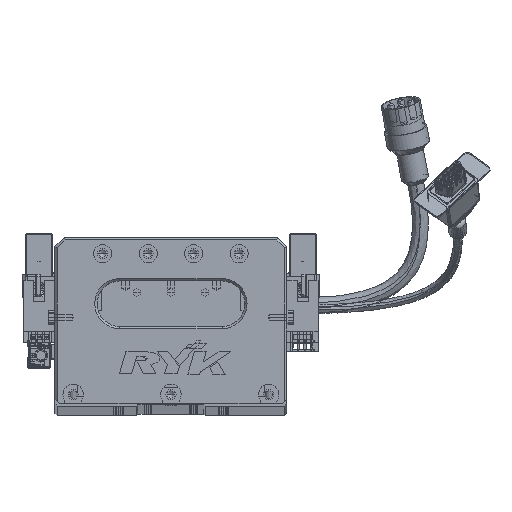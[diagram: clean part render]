
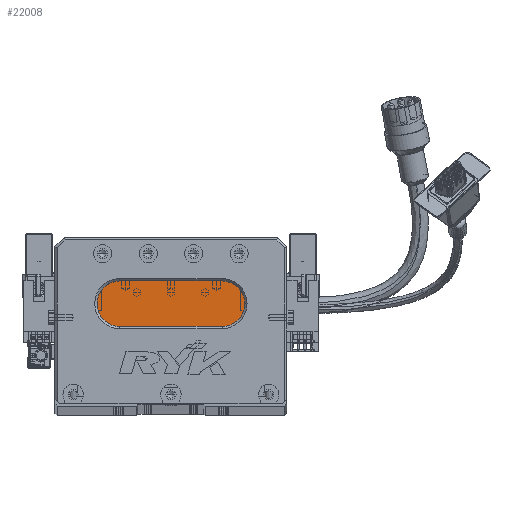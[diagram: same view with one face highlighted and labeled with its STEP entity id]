
A CAD part, top view. The second image highlights one B-rep face of the part: STEP entity #22008.
In plain terms, the highlighted planar face has unit normal (0, 0, 1) as drawn and (0, 0, -1) by its records, which use the part's own axes.
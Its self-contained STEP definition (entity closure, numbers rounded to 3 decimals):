
#2635 = ORIENTED_EDGE ( 'NONE', *, *, #57003, .T. ) ;
#4502 = VERTEX_POINT ( 'NONE', #73982 ) ;
#4646 = CARTESIAN_POINT ( 'NONE',  ( 73.5, 44., 13. ) ) ;
#4796 = EDGE_CURVE ( 'NONE', #67880, #53531, #42107, .T. ) ;
#7554 = CARTESIAN_POINT ( 'NONE',  ( 28.5, 44., 13. ) ) ;
#7565 = VECTOR ( 'NONE', #76485, 1000. ) ;
#7618 = VERTEX_POINT ( 'NONE', #7800 ) ;
#7800 = CARTESIAN_POINT ( 'NONE',  ( 28.5, 34., 13. ) ) ;
#8152 = AXIS2_PLACEMENT_3D ( 'NONE', #50992, #12113, #38253 ) ;
#9529 = AXIS2_PLACEMENT_3D ( 'NONE', #83422, #44662, #38685 ) ;
#10736 = EDGE_CURVE ( 'NONE', #4502, #7618, #74626, .T. ) ;
#12113 = DIRECTION ( 'NONE',  ( 0., 0., -1. ) ) ;
#17952 = DIRECTION ( 'NONE',  ( -1., 0., 0. ) ) ;
#19794 = DIRECTION ( 'NONE',  ( 0., 0., -1. ) ) ;
#22008 = ADVANCED_FACE ( 'NONE', ( #33306 ), #81484, .T. ) ;
#29316 = CARTESIAN_POINT ( 'NONE',  ( 28.5, 54., 13. ) ) ;
#29361 = DIRECTION ( 'NONE',  ( -1., 0., 0. ) ) ;
#29587 = AXIS2_PLACEMENT_3D ( 'NONE', #7554, #19794, #64889 ) ;
#29715 = CIRCLE ( 'NONE', #29587, 10. ) ;
#30691 = CIRCLE ( 'NONE', #9529, 10. ) ;
#31153 = CARTESIAN_POINT ( 'NONE',  ( 73.5, 54., 13. ) ) ;
#33306 = FACE_OUTER_BOUND ( 'NONE', #67785, .T. ) ;
#35157 = VECTOR ( 'NONE', #29361, 1000. ) ;
#36742 = CARTESIAN_POINT ( 'NONE',  ( 18.5, 44., 13. ) ) ;
#38253 = DIRECTION ( 'NONE',  ( -1., 0., 0. ) ) ;
#38685 = DIRECTION ( 'NONE',  ( -1., 0., 0. ) ) ;
#41647 = ORIENTED_EDGE ( 'NONE', *, *, #4796, .T. ) ;
#42107 = LINE ( 'NONE', #31153, #7565 ) ;
#44662 = DIRECTION ( 'NONE',  ( 0., 0., -1. ) ) ;
#45562 = ORIENTED_EDGE ( 'NONE', *, *, #51574, .T. ) ;
#50358 = VERTEX_POINT ( 'NONE', #36742 ) ;
#50992 = CARTESIAN_POINT ( 'NONE',  ( 28.5, 44., 13. ) ) ;
#51574 = EDGE_CURVE ( 'NONE', #53531, #4502, #30691, .T. ) ;
#52502 = CARTESIAN_POINT ( 'NONE',  ( 73.5, 54., 13. ) ) ;
#53531 = VERTEX_POINT ( 'NONE', #52502 ) ;
#55237 = EDGE_CURVE ( 'NONE', #7618, #50358, #57417, .T. ) ;
#56539 = DIRECTION ( 'NONE',  ( 0., 0., -1. ) ) ;
#56862 = CARTESIAN_POINT ( 'NONE',  ( 73.5, 34., 13. ) ) ;
#57003 = EDGE_CURVE ( 'NONE', #50358, #67880, #29715, .T. ) ;
#57417 = CIRCLE ( 'NONE', #8152, 10. ) ;
#63247 = ORIENTED_EDGE ( 'NONE', *, *, #10736, .T. ) ;
#64889 = DIRECTION ( 'NONE',  ( -1., 0., 0. ) ) ;
#67785 = EDGE_LOOP ( 'NONE', ( #45562, #63247, #77414, #2635, #41647 ) ) ;
#67880 = VERTEX_POINT ( 'NONE', #29316 ) ;
#71258 = AXIS2_PLACEMENT_3D ( 'NONE', #4646, #56539, #17952 ) ;
#73982 = CARTESIAN_POINT ( 'NONE',  ( 73.5, 34., 13. ) ) ;
#74626 = LINE ( 'NONE', #56862, #35157 ) ;
#76485 = DIRECTION ( 'NONE',  ( 1., 0., 0. ) ) ;
#77414 = ORIENTED_EDGE ( 'NONE', *, *, #55237, .T. ) ;
#81484 = PLANE ( 'NONE',  #71258 ) ;
#83422 = CARTESIAN_POINT ( 'NONE',  ( 73.5, 44., 13. ) ) ;
